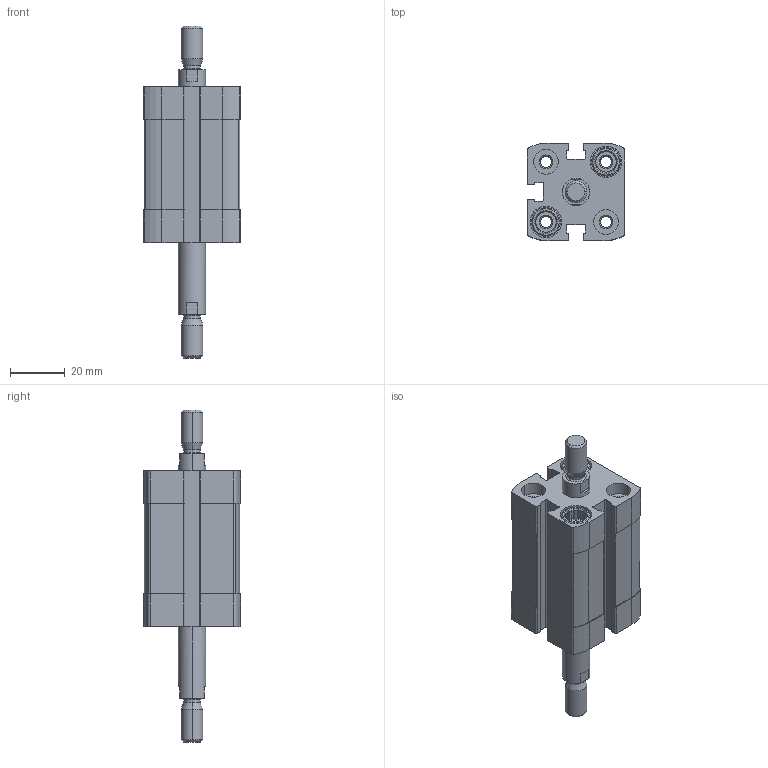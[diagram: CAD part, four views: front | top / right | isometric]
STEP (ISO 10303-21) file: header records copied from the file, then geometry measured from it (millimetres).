
FILE_DESCRIPTION (( 'STEP AP203' ), '1' );
FILE_NAME ('CCN20-20-P.STEP', '2020-06-22T18:39:46', ( '' ), ( '' ), 'SwSTEP 2.0', 'SolidWorks 2019', '' );
FILE_SCHEMA (( 'CONFIG_CONTROL_DESIGN' ));
Length unit declared in the file: millimetre
Products named in the file (1): CCN20-20-P
Bounding box: 35.5 x 35.5 x 121.5 mm (x, y, z)
Volume: 56992.2 mm3; surface area: 25168.8 mm2
Topology: 2 solids, 2 shells, 428 faces, 1122 edges, 730 vertices
Faces by surface type: plane 236, cylinder 140, cone 44, torus 8
Entity records: 13443 total; most frequent: CARTESIAN_POINT 2581, DIRECTION 2318, ORIENTED_EDGE 2244, EDGE_CURVE 1122, AXIS2_PLACEMENT_3D 867, VERTEX_POINT 730, VECTOR 584, LINE 584
